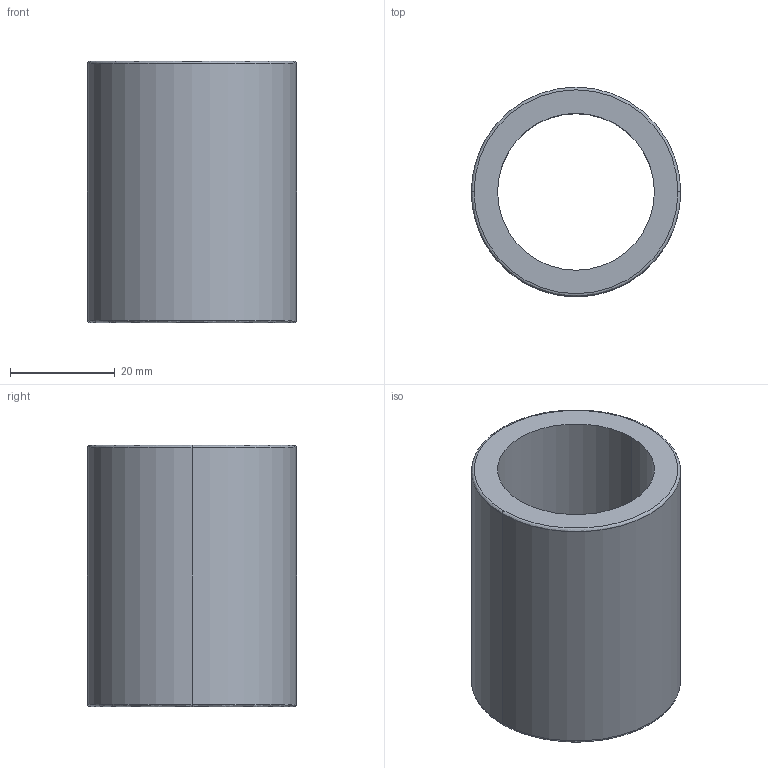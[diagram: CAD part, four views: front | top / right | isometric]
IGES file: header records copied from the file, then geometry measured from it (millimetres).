
Start section: 3D InterOp IGES (Version 21 0 1), Spatial Corp. Copyright (c) 1999-2007.
Global section: file name: CB-30.igs; native system: Spatial Corp.; preprocessor: 3D InterOp GENERIC/IGES 3.0; author: Noname; organization: Noname; date: 20220216.095926; units: millimetre
Bounding box: 40 x 40 x 50 mm (x, y, z)
Surface area: 12041 mm2 (no closed solid volume)
Topology: 0 solids, 0 shells, 10 faces, 40 edges, 40 vertices
Faces by surface type: revolution 8, extrusion 2
